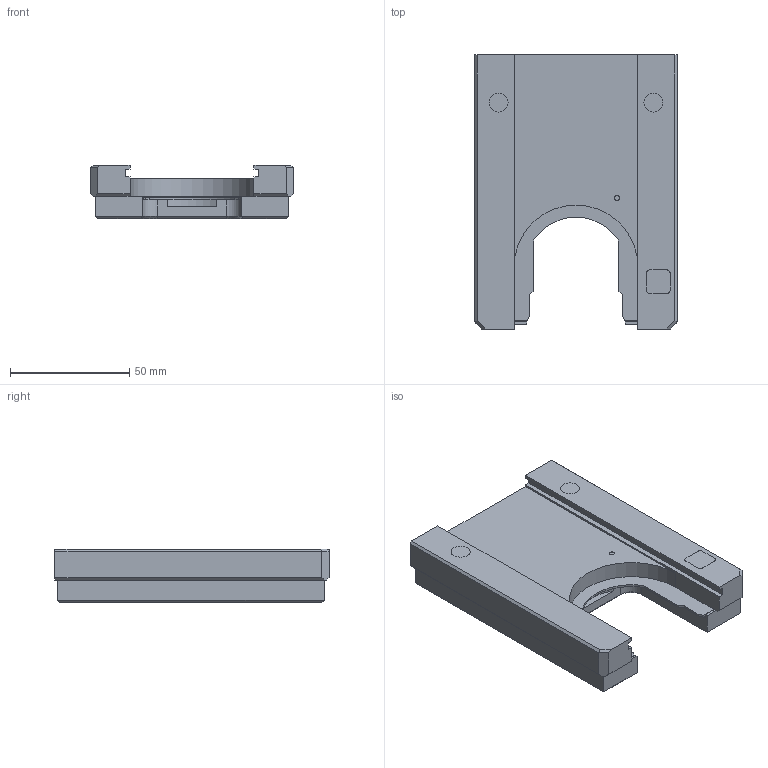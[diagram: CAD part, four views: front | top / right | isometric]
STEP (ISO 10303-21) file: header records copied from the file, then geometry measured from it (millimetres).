
FILE_DESCRIPTION(/* description */ (''),/* implementation_level */ '2;1');
FILE_NAME(/* name */ 'LA-2098-0927#-A.stp',/* time_stamp */ '2012-09-07T10:06:43+01:00',/* author */ (''),/* organization */ (''),/* preprocessor_version */ 'ST-DEVELOPER v11',/* originating_system */ 'SIEMENS PLM Software NX 7.5',/* authorisation */ '');
FILE_SCHEMA (('AUTOMOTIVE_DESIGN { 1 0 10303 214 1 1 1 1 }'));
Length unit declared in the file: millimetre
Products named in the file (1): rt13371Ayv0w
Bounding box: 85 x 115 x 22.5 mm (x, y, z)
Volume: 140611.1 mm3; surface area: 30489.8 mm2
Topology: 1 solids, 1 shells, 90 faces, 245 edges, 161 vertices
Faces by surface type: plane 75, cylinder 13, cone 2
Entity records: 3466 total; most frequent: CARTESIAN_POINT 497, ORIENTED_EDGE 490, DIRECTION 462, EDGE_CURVE 245, LINE 210, VECTOR 210, VERTEX_POINT 161, AXIS2_PLACEMENT_3D 126
